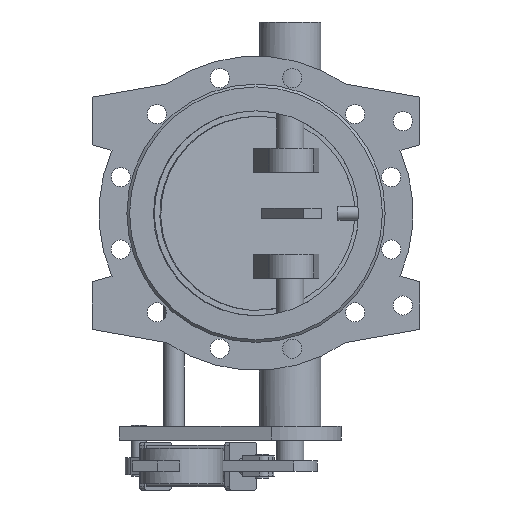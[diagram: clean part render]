
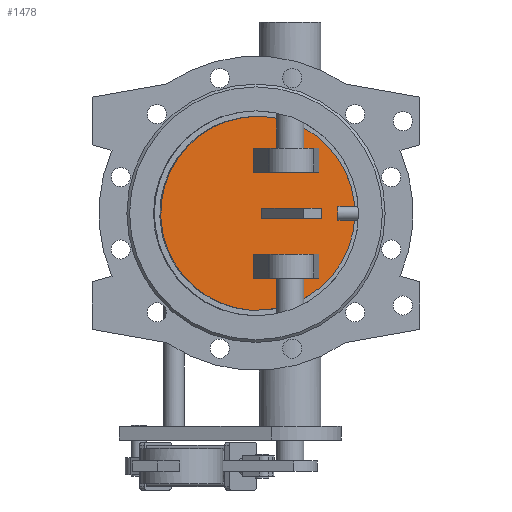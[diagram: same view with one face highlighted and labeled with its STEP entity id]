
A CAD part, front view. The second image highlights one B-rep face of the part: STEP entity #1478.
In plain terms, the highlighted planar face has unit normal (0.131, -0.991, 0).
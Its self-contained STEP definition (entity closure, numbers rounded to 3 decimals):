
#1478=ADVANCED_FACE('',(#3224,#3226,#3228,#3230),#3232,.T.);
#3224=FACE_BOUND('',#3225,.T.);
#3225=EDGE_LOOP('',(#4254));
#3226=FACE_BOUND('',#3227,.T.);
#3227=EDGE_LOOP('',(#4255,#4256,#4257,#4258));
#3228=FACE_BOUND('',#3229,.T.);
#3229=EDGE_LOOP('',(#4259,#4260,#4261,#4262));
#3230=FACE_BOUND('',#3231,.T.);
#3231=EDGE_LOOP('',(#4263,#4264,#4265,#4266));
#3232=PLANE('',#3233);
#3233=AXIS2_PLACEMENT_3D('',#3234,#3235,#3236);
#3234=CARTESIAN_POINT('',(-1.272,9.66,0.));
#3235=DIRECTION('',(0.131,-0.991,0.));
#3236=DIRECTION('',(0.,0.,-1.));
#4254=ORIENTED_EDGE('',*,*,#4751,.T.);
#4255=ORIENTED_EDGE('',*,*,#4753,.F.);
#4256=ORIENTED_EDGE('',*,*,#4754,.F.);
#4257=ORIENTED_EDGE('',*,*,#4755,.F.);
#4258=ORIENTED_EDGE('',*,*,#4756,.F.);
#4259=ORIENTED_EDGE('',*,*,#4757,.F.);
#4260=ORIENTED_EDGE('',*,*,#4758,.F.);
#4261=ORIENTED_EDGE('',*,*,#4759,.F.);
#4262=ORIENTED_EDGE('',*,*,#4760,.F.);
#4263=ORIENTED_EDGE('',*,*,#4761,.F.);
#4264=ORIENTED_EDGE('',*,*,#4762,.F.);
#4265=ORIENTED_EDGE('',*,*,#4763,.F.);
#4266=ORIENTED_EDGE('',*,*,#4764,.F.);
#4751=EDGE_CURVE('',#5444,#5444,#5445,.T.);
#4753=EDGE_CURVE('',#5448,#5449,#5450,.T.);
#4754=EDGE_CURVE('',#5451,#5448,#5452,.F.);
#4755=EDGE_CURVE('',#5453,#5451,#5454,.T.);
#4756=EDGE_CURVE('',#5449,#5453,#5455,.T.);
#4757=EDGE_CURVE('',#5456,#5457,#5458,.F.);
#4758=EDGE_CURVE('',#5459,#5456,#5460,.T.);
#4759=EDGE_CURVE('',#5461,#5459,#5462,.T.);
#4760=EDGE_CURVE('',#5457,#5461,#5463,.T.);
#4761=EDGE_CURVE('',#5464,#5465,#5466,.T.);
#4762=EDGE_CURVE('',#5467,#5464,#5468,.F.);
#4763=EDGE_CURVE('',#5469,#5467,#5470,.F.);
#4764=EDGE_CURVE('',#5465,#5469,#5471,.F.);
#5444=VERTEX_POINT('',#8806);
#5445=B_SPLINE_CURVE_WITH_KNOTS('',3,
(#8807,#8808,#8809,#8810,#8811,#8812,#8813,#8814,#8815,#8816,#8817,#8818,#8819,#8820,
#8821,#8822,#8823,#8824,#8825,#8826,#8827,#8828,#8829,#8830,#8831,#8832,#8833,#8834,
#8835,#8836,#8837,#8838,#8839,#8840,#8841,#8842,#8843,#8844,#8845,#8846,#8847,#8848,
#8849,#8850,#8851,#8852,#8853,#8854,#8855,#8856,#8857),
.UNSPECIFIED.,.T.,.F.,
(4,1,1,1,1,1,1,1,1,1,1,1,1,1,1,1,1,1,1,1,1,1,1,1,1,1,1,1,1,1,1,1,1,1,1,1,1,1,1,1,
1,1,1,1,1,1,1,1,4),
(0.,0.021,0.042,0.063,0.084,
0.105,0.126,0.147,0.168,0.189,
0.21,0.232,0.253,0.274,0.295,
0.316,0.337,0.358,0.379,0.4,
0.421,0.442,0.463,0.484,0.505,
0.526,0.548,0.569,0.59,0.611,
0.632,0.653,0.674,0.695,0.716,
0.737,0.758,0.779,0.8,0.822,
0.843,0.864,0.885,0.906,0.927,
0.948,0.969,0.986,1.),
.UNSPECIFIED.);
#5448=VERTEX_POINT('',#8910);
#5449=VERTEX_POINT('',#8911);
#5450=LINE('',#8912,#8913);
#5451=VERTEX_POINT('',#8915);
#5452=LINE('',#8916,#8917);
#5453=VERTEX_POINT('',#8919);
#5454=LINE('',#8920,#8921);
#5455=LINE('',#8923,#8924);
#5456=VERTEX_POINT('',#8926);
#5457=VERTEX_POINT('',#8927);
#5458=LINE('',#8928,#8929);
#5459=VERTEX_POINT('',#8931);
#5460=LINE('',#8932,#8933);
#5461=VERTEX_POINT('',#8935);
#5462=LINE('',#8936,#8937);
#5463=LINE('',#8939,#8940);
#5464=VERTEX_POINT('',#8942);
#5465=VERTEX_POINT('',#8943);
#5466=LINE('',#8944,#8945);
#5467=VERTEX_POINT('',#8947);
#5468=LINE('',#8948,#8949);
#5469=VERTEX_POINT('',#8951);
#5470=LINE('',#8952,#8953);
#5471=LINE('',#8955,#8956);
#8806=CARTESIAN_POINT('',(2.611,10.171,142.));
#8807=CARTESIAN_POINT('',(2.611,10.171,142.));
#8808=CARTESIAN_POINT('',(-3.625,9.35,142.));
#8809=CARTESIAN_POINT('',(-16.111,7.706,141.177));
#8810=CARTESIAN_POINT('',(-34.541,5.28,137.488));
#8811=CARTESIAN_POINT('',(-52.351,2.935,131.393));
#8812=CARTESIAN_POINT('',(-69.215,0.715,122.996));
#8813=CARTESIAN_POINT('',(-84.823,-1.34,112.449));
#8814=CARTESIAN_POINT('',(-98.906,-3.194,99.932));
#8815=CARTESIAN_POINT('',(-111.215,-4.814,85.665));
#8816=CARTESIAN_POINT('',(-121.534,-6.173,69.895));
#8817=CARTESIAN_POINT('',(-129.68,-7.245,52.898));
#8818=CARTESIAN_POINT('',(-135.511,-8.013,34.972));
#8819=CARTESIAN_POINT('',(-138.922,-8.462,16.433));
#8820=CARTESIAN_POINT('',(-139.854,-8.585,-2.395));
#8821=CARTESIAN_POINT('',(-138.29,-8.379,-21.179));
#8822=CARTESIAN_POINT('',(-134.258,-7.848,-39.59));
#8823=CARTESIAN_POINT('',(-127.83,-7.002,-57.305));
#8824=CARTESIAN_POINT('',(-119.12,-5.855,-74.014));
#8825=CARTESIAN_POINT('',(-108.282,-4.428,-89.424));
#8826=CARTESIAN_POINT('',(-95.507,-2.746,-103.267));
#8827=CARTESIAN_POINT('',(-81.02,-0.839,-115.303));
#8828=CARTESIAN_POINT('',(-65.072,1.261,-125.321));
#8829=CARTESIAN_POINT('',(-47.944,3.516,-133.149));
#8830=CARTESIAN_POINT('',(-29.933,5.887,-138.65));
#8831=CARTESIAN_POINT('',(-11.355,8.332,-141.729));
#8832=CARTESIAN_POINT('',(7.467,10.811,-142.332));
#8833=CARTESIAN_POINT('',(26.206,13.277,-140.448));
#8834=CARTESIAN_POINT('',(44.533,15.69,-136.111));
#8835=CARTESIAN_POINT('',(62.13,18.007,-129.394));
#8836=CARTESIAN_POINT('',(78.689,20.187,-120.414));
#8837=CARTESIAN_POINT('',(93.921,22.192,-109.327));
#8838=CARTESIAN_POINT('',(107.558,23.988,-96.326));
#8839=CARTESIAN_POINT('',(119.362,25.542,-81.636));
#8840=CARTESIAN_POINT('',(129.123,26.827,-65.514));
#8841=CARTESIAN_POINT('',(136.671,27.82,-48.243));
#8842=CARTESIAN_POINT('',(141.871,28.505,-30.124));
#8843=CARTESIAN_POINT('',(144.632,28.869,-11.477));
#8844=CARTESIAN_POINT('',(144.904,28.904,7.372));
#8845=CARTESIAN_POINT('',(142.684,28.612,26.09));
#8846=CARTESIAN_POINT('',(138.01,27.997,44.348));
#8847=CARTESIAN_POINT('',(130.967,27.07,61.827));
#8848=CARTESIAN_POINT('',(121.679,25.847,78.22));
#8849=CARTESIAN_POINT('',(110.31,24.35,93.241));
#8850=CARTESIAN_POINT('',(97.06,22.606,106.63));
#8851=CARTESIAN_POINT('',(82.164,20.645,118.149));
#8852=CARTESIAN_POINT('',(65.902,18.504,127.591));
#8853=CARTESIAN_POINT('',(48.508,16.214,134.824));
#8854=CARTESIAN_POINT('',(31.356,13.956,139.419));
#8855=CARTESIAN_POINT('',(15.935,11.925,141.602));
#8856=CARTESIAN_POINT('',(6.683,10.707,142.));
#8857=CARTESIAN_POINT('',(2.611,10.171,142.));
#8910=CARTESIAN_POINT('',(82.749,20.722,-7.5));
#8911=CARTESIAN_POINT('',(82.749,20.722,7.5));
#8912=CARTESIAN_POINT('',(82.749,20.722,-7.5));
#8913=VECTOR('',#8914,1.);
#8914=DIRECTION('',(0.,0.,1.));
#8915=CARTESIAN_POINT('',(8.391,10.932,-7.5));
#8916=CARTESIAN_POINT('',(82.749,20.722,-7.5));
#8917=VECTOR('',#8918,1.);
#8918=DIRECTION('',(-0.991,-0.131,0.));
#8919=CARTESIAN_POINT('',(8.391,10.932,7.5));
#8920=CARTESIAN_POINT('',(8.391,10.932,7.5));
#8921=VECTOR('',#8922,1.);
#8922=DIRECTION('',(0.,0.,-1.));
#8923=CARTESIAN_POINT('',(82.749,20.722,7.5));
#8924=VECTOR('',#8925,1.);
#8925=DIRECTION('',(-0.991,-0.131,0.));
#8926=CARTESIAN_POINT('',(-4.154,9.281,-95.));
#8927=CARTESIAN_POINT('',(92.142,21.958,-95.));
#8928=CARTESIAN_POINT('',(92.142,21.958,-95.));
#8929=VECTOR('',#8930,1.);
#8930=DIRECTION('',(-0.991,-0.131,0.));
#8931=CARTESIAN_POINT('',(-4.154,9.281,-60.));
#8932=CARTESIAN_POINT('',(-4.154,9.281,-60.));
#8933=VECTOR('',#8934,1.);
#8934=DIRECTION('',(0.,0.,-1.));
#8935=CARTESIAN_POINT('',(92.142,21.958,-60.));
#8936=CARTESIAN_POINT('',(92.142,21.958,-60.));
#8937=VECTOR('',#8938,1.);
#8938=DIRECTION('',(-0.991,-0.131,0.));
#8939=CARTESIAN_POINT('',(92.142,21.958,-95.));
#8940=VECTOR('',#8941,1.);
#8941=DIRECTION('',(0.,0.,1.));
#8942=CARTESIAN_POINT('',(92.142,21.958,95.));
#8943=CARTESIAN_POINT('',(-4.154,9.281,95.));
#8944=CARTESIAN_POINT('',(92.142,21.958,95.));
#8945=VECTOR('',#8946,1.);
#8946=DIRECTION('',(-0.991,-0.131,0.));
#8947=CARTESIAN_POINT('',(92.142,21.958,60.));
#8948=CARTESIAN_POINT('',(92.142,21.958,95.));
#8949=VECTOR('',#8950,1.);
#8950=DIRECTION('',(0.,0.,-1.));
#8951=CARTESIAN_POINT('',(-4.154,9.281,60.));
#8952=CARTESIAN_POINT('',(92.142,21.958,60.));
#8953=VECTOR('',#8954,1.);
#8954=DIRECTION('',(-0.991,-0.131,0.));
#8955=CARTESIAN_POINT('',(-4.154,9.281,60.));
#8956=VECTOR('',#8957,1.);
#8957=DIRECTION('',(0.,0.,1.));
